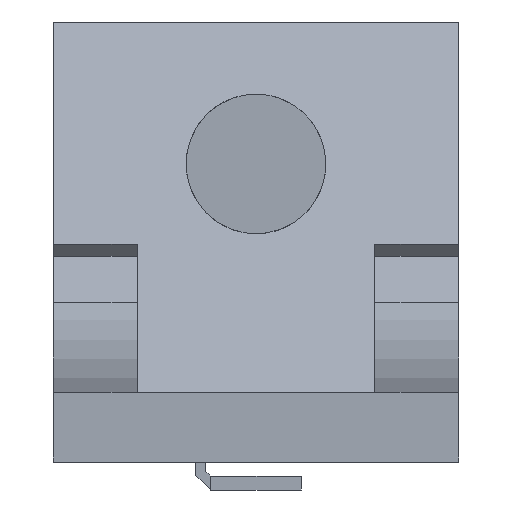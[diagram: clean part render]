
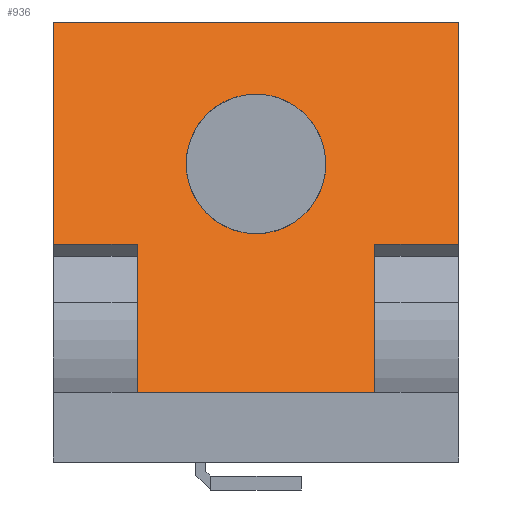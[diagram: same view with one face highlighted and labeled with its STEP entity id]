
A CAD part, front view. The second image highlights one B-rep face of the part: STEP entity #936.
In plain terms, the highlighted planar face has unit normal (0, -0.904, 0.427).
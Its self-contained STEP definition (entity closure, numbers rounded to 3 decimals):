
#759 = VERTEX_POINT('',#760);
#760 = CARTESIAN_POINT('',(1.7,-6.35,1.4));
#766 = EDGE_CURVE('',#767,#759,#769,.T.);
#767 = VERTEX_POINT('',#768);
#768 = CARTESIAN_POINT('',(-1.7,-6.35,1.4));
#769 = LINE('',#770,#771);
#770 = CARTESIAN_POINT('',(-1.7,-6.35,1.4));
#771 = VECTOR('',#772,1.);
#772 = DIRECTION('',(1.,0.,0.));
#936 = ADVANCED_FACE('',(#937,#994),#1005,.T.);
#937 = FACE_BOUND('',#938,.T.);
#938 = EDGE_LOOP('',(#939,#947,#948,#956,#964,#972,#980,#988));
#939 = ORIENTED_EDGE('',*,*,#940,.F.);
#940 = EDGE_CURVE('',#767,#941,#943,.T.);
#941 = VERTEX_POINT('',#942);
#942 = CARTESIAN_POINT('',(-1.7,-5.35,3.521));
#943 = LINE('',#944,#945);
#944 = CARTESIAN_POINT('',(-1.7,-6.35,1.4));
#945 = VECTOR('',#946,1.);
#946 = DIRECTION('',(0.,0.427,0.904)
  );
#947 = ORIENTED_EDGE('',*,*,#766,.T.);
#948 = ORIENTED_EDGE('',*,*,#949,.T.);
#949 = EDGE_CURVE('',#759,#950,#952,.T.);
#950 = VERTEX_POINT('',#951);
#951 = CARTESIAN_POINT('',(1.7,-5.35,3.521));
#952 = LINE('',#953,#954);
#953 = CARTESIAN_POINT('',(1.7,-6.35,1.4));
#954 = VECTOR('',#955,1.);
#955 = DIRECTION('',(0.,0.427,0.904)
  );
#956 = ORIENTED_EDGE('',*,*,#957,.T.);
#957 = EDGE_CURVE('',#950,#958,#960,.T.);
#958 = VERTEX_POINT('',#959);
#959 = CARTESIAN_POINT('',(2.9,-5.35,3.521));
#960 = LINE('',#961,#962);
#961 = CARTESIAN_POINT('',(-2.9,-5.35,3.521));
#962 = VECTOR('',#963,1.);
#963 = DIRECTION('',(1.,0.,0.));
#964 = ORIENTED_EDGE('',*,*,#965,.F.);
#965 = EDGE_CURVE('',#966,#958,#968,.T.);
#966 = VERTEX_POINT('',#967);
#967 = CARTESIAN_POINT('',(2.9,-3.85,6.7));
#968 = LINE('',#969,#970);
#969 = CARTESIAN_POINT('',(2.9,-3.85,6.7));
#970 = VECTOR('',#971,1.);
#971 = DIRECTION('',(0.,-0.427,-0.904)
  );
#972 = ORIENTED_EDGE('',*,*,#973,.F.);
#973 = EDGE_CURVE('',#974,#966,#976,.T.);
#974 = VERTEX_POINT('',#975);
#975 = CARTESIAN_POINT('',(-2.9,-3.85,6.7));
#976 = LINE('',#977,#978);
#977 = CARTESIAN_POINT('',(-2.9,-3.85,6.7));
#978 = VECTOR('',#979,1.);
#979 = DIRECTION('',(1.,0.,0.));
#980 = ORIENTED_EDGE('',*,*,#981,.T.);
#981 = EDGE_CURVE('',#974,#982,#984,.T.);
#982 = VERTEX_POINT('',#983);
#983 = CARTESIAN_POINT('',(-2.9,-5.35,3.521));
#984 = LINE('',#985,#986);
#985 = CARTESIAN_POINT('',(-2.9,-3.85,6.7));
#986 = VECTOR('',#987,1.);
#987 = DIRECTION('',(0.,-0.427,-0.904)
  );
#988 = ORIENTED_EDGE('',*,*,#989,.T.);
#989 = EDGE_CURVE('',#982,#941,#990,.T.);
#990 = LINE('',#991,#992);
#991 = CARTESIAN_POINT('',(-2.9,-5.35,3.521));
#992 = VECTOR('',#993,1.);
#993 = DIRECTION('',(1.,0.,0.));
#994 = FACE_BOUND('',#995,.T.);
#995 = EDGE_LOOP('',(#996));
#996 = ORIENTED_EDGE('',*,*,#997,.F.);
#997 = EDGE_CURVE('',#998,#998,#1000,.T.);
#998 = VERTEX_POINT('',#999);
#999 = CARTESIAN_POINT('',(1.,-4.808,4.668));
#1000 = ELLIPSE('',#1001,1.106,1.);
#1001 = AXIS2_PLACEMENT_3D('',#1002,#1003,#1004);
#1002 = CARTESIAN_POINT('',(0.,-4.808,4.668
    ));
#1003 = DIRECTION('',(0.,-0.904,0.427
    ));
#1004 = DIRECTION('',(0.,0.427,0.904)
  );
#1005 = PLANE('',#1006);
#1006 = AXIS2_PLACEMENT_3D('',#1007,#1008,#1009);
#1007 = CARTESIAN_POINT('',(0.,-4.997,
    4.268));
#1008 = DIRECTION('',(0.,-0.904,0.427
    ));
#1009 = DIRECTION('',(0.,-0.427,-0.904
    ));
